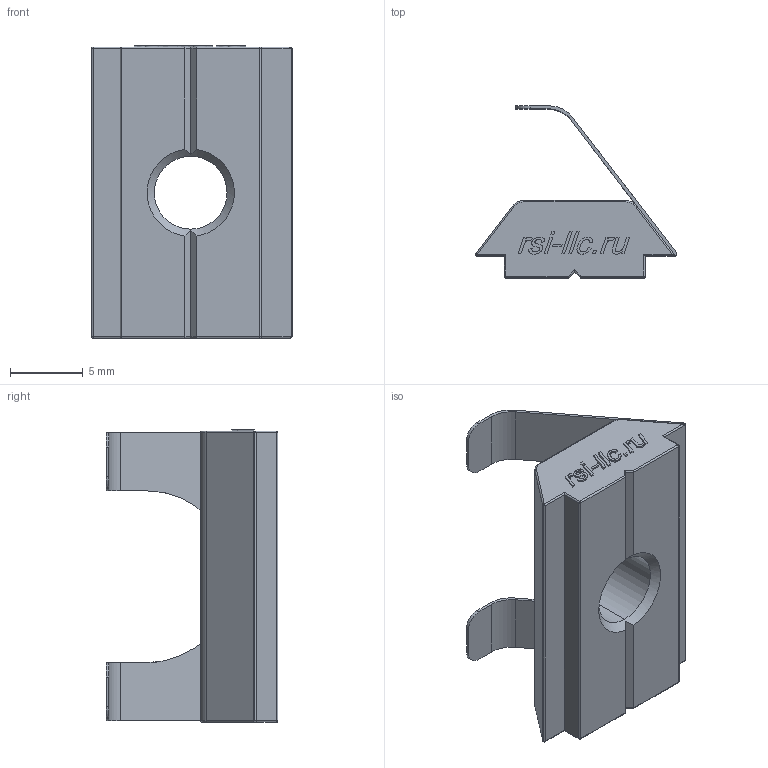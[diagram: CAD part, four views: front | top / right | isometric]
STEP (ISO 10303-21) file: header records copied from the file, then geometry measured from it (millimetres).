
FILE_DESCRIPTION (( 'STEP AP214' ), '1' );
FILE_NAME ('2ﾀ11.ﾀ21ﾀ.01.STEP', '2020-10-26T13:21:48', ( '' ), ( '' ), 'SwSTEP 2.0', 'SolidWorks 2018', '' );
FILE_SCHEMA (( 'AUTOMOTIVE_DESIGN' ));
Length unit declared in the file: millimetre
Products named in the file (1): 2ﾀ11.ﾀ21ﾀ.01
Bounding box: 13.8 x 11.8 x 20.1 mm (x, y, z)
Volume: 1041.3 mm3; surface area: 1042.1 mm2
Topology: 1 solids, 1 shells, 176 faces, 448 edges, 278 vertices
Faces by surface type: plane 90, cylinder 40, bspline 32, sphere 6, cone 4, torus 4
Entity records: 7984 total; most frequent: CARTESIAN_POINT 2941, ORIENTED_EDGE 884, DIRECTION 710, EDGE_CURVE 442, LINE 296, VECTOR 296, VERTEX_POINT 278, AXIS2_PLACEMENT_3D 207
